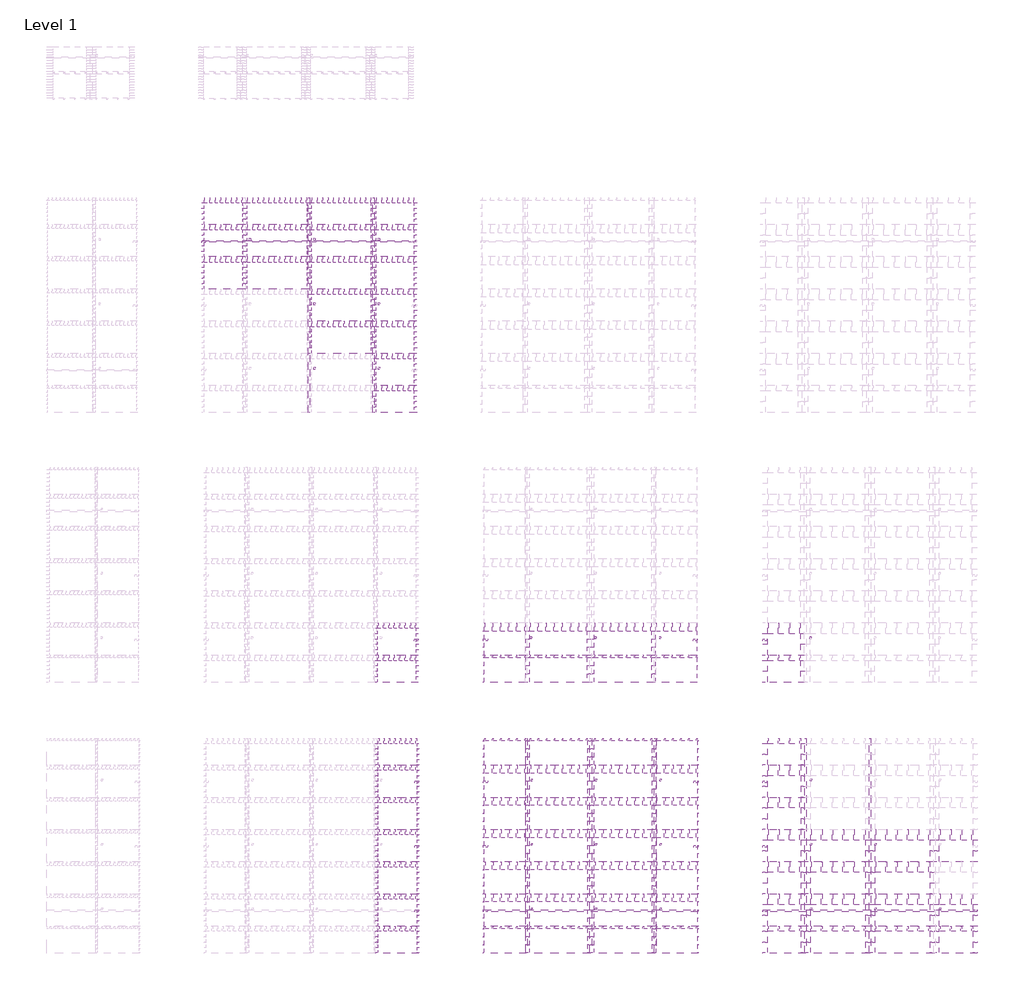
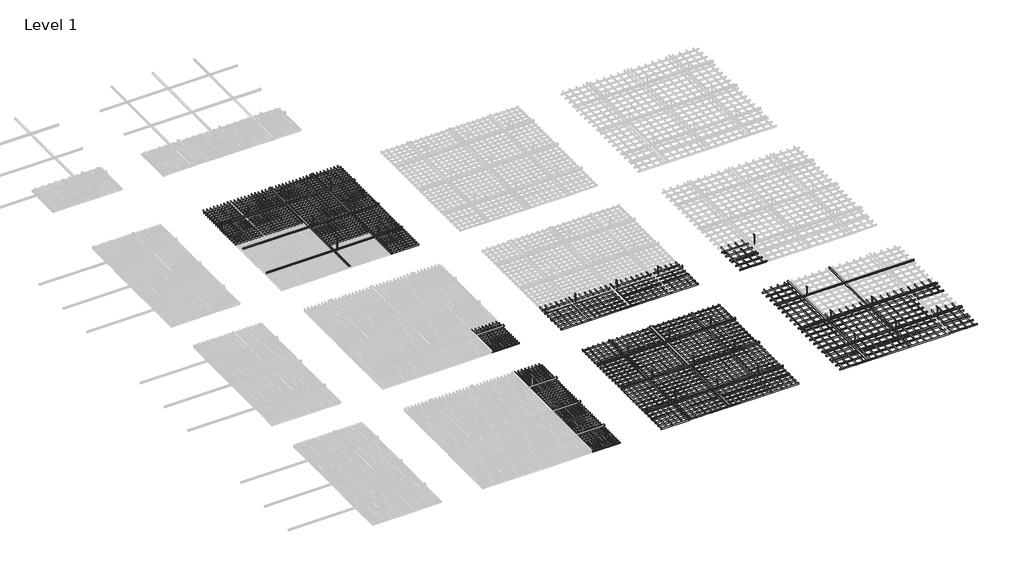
# One storey, part 13 of 32: 137 proxies.
"""IFC4 building model written with IfcOpenShell, lengths in millimetres."""

from ifc_helpers import new_model, si_unit, origin, place, context, project, spatial, transform, mapped, element, save
from components import generic_models_f4ce44e0, generic_models_8915e19e, generic_models_b706f660, generic_models_8f572224, generic_models_2927a7a0, generic_models_375b31eb, generic_models_111ba9e5, generic_models_deb741b8, generic_models_ab05f4b6, generic_models_ed86a27e, generic_models_0d36629b, generic_models_4441d552, generic_models_71c4b85c, generic_models_6bcacae0, generic_models_b7501322, generic_models_f3941969, generic_models_6d0d0a9c, generic_models_cc0eb073, generic_models_892ac56f, generic_models_c55380b1, generic_models_c5b66b1f, generic_models_3ca765b0, generic_models_711bea8a, generic_models_0913f8e8, generic_models_f6474ad0, generic_models_28f6a95c, generic_models_9e18e937

model = new_model("IFC4")

# Units and contexts
model_context = context("Model", 3, world=origin())
ifc_project = project(units=[si_unit("LENGTHUNIT", "METRE", prefix="MILLI")], contexts=[model_context])

# Site, building, storey
site = spatial("IfcSite", under=ifc_project)
building = spatial("IfcBuilding", under=site)
storey = spatial("IfcBuildingStorey", under=building, Name="Level 1", Elevation=0.0)

# Proxies
placement = place(None, origin())
generic_models_shape = generic_models_f4ce44e0(model_context)
element("IfcBuildingElementProxy", 1, Name="durlum_U94 : durlum_U94", ObjectType="durlum_U94 : durlum_U94", at=placement, inside=storey, context=model_context, shape_type="MappedRepresentation", body=[
    mapped(generic_models_shape, transform((46374.5159714, -2089.6204758, 3724.0), x_axis=(0.0, 1.0, 0.0), y_axis=(-1.0, 0.0, 0.0), z_axis=(0.0, 0.0, 1.0))),
])
element("IfcBuildingElementProxy", 2, Name="durlum_U94 : durlum_U94", ObjectType="durlum_U94 : durlum_U94", at=placement, inside=storey, context=model_context, shape_type="MappedRepresentation", body=[
    mapped(generic_models_shape, transform((47574.5159714, -2089.6204758, 3724.0), x_axis=(0.0, 1.0, 0.0), y_axis=(-1.0, 0.0, 0.0), z_axis=(0.0, 0.0, 1.0))),
])
element("IfcBuildingElementProxy", 3, Name="durlum_U94 : durlum_U94", ObjectType="durlum_U94 : durlum_U94", at=placement, inside=storey, context=model_context, shape_type="MappedRepresentation", body=[
    mapped(generic_models_shape, transform((51618.6409714, -12159.3698822, 3724.0), x_axis=(0.0, 1.0, 0.0), y_axis=(-1.0, 0.0, 0.0), z_axis=(0.0, 0.0, 1.0))),
])
element("IfcBuildingElementProxy", 4, Name="durlum_U94 : durlum_U94", ObjectType="durlum_U94 : durlum_U94", at=placement, inside=storey, context=model_context, shape_type="MappedRepresentation", body=[
    mapped(generic_models_shape, transform((50418.6409714, -12159.3698822, 3724.0), x_axis=(0.0, 1.0, 0.0), y_axis=(-1.0, 0.0, 0.0), z_axis=(0.0, 0.0, 1.0))),
])
element("IfcBuildingElementProxy", 5, Name="durlum_U94 : durlum_U94", ObjectType="durlum_U94 : durlum_U94", at=placement, inside=storey, context=model_context, shape_type="MappedRepresentation", body=[
    mapped(generic_models_shape, transform((52818.6409714, -12159.3698822, 3724.0), x_axis=(0.0, 1.0, 0.0), y_axis=(-1.0, 0.0, 0.0), z_axis=(0.0, 0.0, 1.0))),
])
element("IfcBuildingElementProxy", 6, Name="durlum_U94 : durlum_U94", ObjectType="durlum_U94 : durlum_U94", at=placement, inside=storey, context=model_context, shape_type="MappedRepresentation", body=[
    mapped(generic_models_shape, transform((56818.6409714, -12159.3698822, 3724.0), x_axis=(0.0, 1.0, 0.0), y_axis=(-1.0, 0.0, 0.0), z_axis=(0.0, 0.0, 1.0))),
])
element("IfcBuildingElementProxy", 7, Name="durlum_U94 : durlum_U94", ObjectType="durlum_U94 : durlum_U94", at=placement, inside=storey, context=model_context, shape_type="MappedRepresentation", body=[
    mapped(generic_models_shape, transform((55618.6409714, -12159.3698822, 3724.0), x_axis=(0.0, 1.0, 0.0), y_axis=(-1.0, 0.0, 0.0), z_axis=(0.0, 0.0, 1.0))),
])
generic_models_2_shape = generic_models_8915e19e(model_context)
element("IfcBuildingElementProxy", 8, Name="durlum_GEO_panel : durlum_GEO_4", ObjectType="durlum_GEO_panel : durlum_GEO_4", at=placement, inside=storey, context=model_context, shape_type="MappedRepresentation", body=[
    mapped(generic_models_2_shape, transform((46974.5159714, -2689.6204758, 3700.0), x_axis=(1.0, 0.0, 0.0), y_axis=(0.0, 1.0, 0.0), z_axis=(0.0, 0.0, 1.0))),
])
element("IfcBuildingElementProxy", 9, Name="durlum_GEO_panel : durlum_GEO_4", ObjectType="durlum_GEO_panel : durlum_GEO_4", at=placement, inside=storey, context=model_context, shape_type="MappedRepresentation", body=[
    mapped(generic_models_2_shape, transform((46974.5159714, -2089.6204758, 3700.0), x_axis=(1.0, 0.0, 0.0), y_axis=(0.0, 1.0, 0.0), z_axis=(0.0, 0.0, 1.0))),
])
element("IfcBuildingElementProxy", 10, Name="durlum_GEO_panel : durlum_GEO_4", ObjectType="durlum_GEO_panel : durlum_GEO_4", at=placement, inside=storey, context=model_context, shape_type="MappedRepresentation", body=[
    mapped(generic_models_2_shape, transform((45774.5159714, -1489.6204758, 3700.0), x_axis=(1.0, 0.0, 0.0), y_axis=(0.0, 1.0, 0.0), z_axis=(0.0, 0.0, 1.0))),
])
element("IfcBuildingElementProxy", 11, Name="durlum_GEO_panel : durlum_GEO_4", ObjectType="durlum_GEO_panel : durlum_GEO_4", at=placement, inside=storey, context=model_context, shape_type="MappedRepresentation", body=[
    mapped(generic_models_2_shape, transform((46974.5159714, -1489.6204758, 3700.0), x_axis=(1.0, 0.0, 0.0), y_axis=(0.0, 1.0, 0.0), z_axis=(0.0, 0.0, 1.0))),
])
element("IfcBuildingElementProxy", 12, Name="durlum_GEO_panel : durlum_GEO_4", ObjectType="durlum_GEO_panel : durlum_GEO_4", at=placement, inside=storey, context=model_context, shape_type="MappedRepresentation", body=[
    mapped(generic_models_2_shape, transform((45774.5159714, -889.6204758, 3700.0), x_axis=(1.0, 0.0, 0.0), y_axis=(0.0, 1.0, 0.0), z_axis=(0.0, 0.0, 1.0))),
])
element("IfcBuildingElementProxy", 13, Name="durlum_GEO_panel : durlum_GEO_4", ObjectType="durlum_GEO_panel : durlum_GEO_4", at=placement, inside=storey, context=model_context, shape_type="MappedRepresentation", body=[
    mapped(generic_models_2_shape, transform((46974.5159714, -889.6204758, 3700.0), x_axis=(1.0, 0.0, 0.0), y_axis=(0.0, 1.0, 0.0), z_axis=(0.0, 0.0, 1.0))),
])
generic_models_3_shape = generic_models_b706f660(model_context)
element("IfcBuildingElementProxy", 14, Name="durlum_GEO_panel : durlum_GEO_4_width_cut", ObjectType="durlum_GEO_panel : durlum_GEO_4_width_cut", at=placement, inside=storey, context=model_context, shape_type="MappedRepresentation", body=[
    mapped(generic_models_3_shape, transform((45774.5159714, -339.6204758, 3700.0), x_axis=(1.0, 0.0, 0.0), y_axis=(0.0, 1.0, 0.0), z_axis=(0.0, 0.0, 1.0))),
])
element("IfcBuildingElementProxy", 15, Name="durlum_GEO_panel : durlum_GEO_4_width_cut", ObjectType="durlum_GEO_panel : durlum_GEO_4_width_cut", at=placement, inside=storey, context=model_context, shape_type="MappedRepresentation", body=[
    mapped(generic_models_3_shape, transform((46974.5159714, -339.6204758, 3700.0), x_axis=(1.0, 0.0, 0.0), y_axis=(0.0, 1.0, 0.0), z_axis=(0.0, 0.0, 1.0))),
])
generic_models_4_shape = generic_models_8f572224(model_context)
element("IfcBuildingElementProxy", 16, Name="durlum_GEO_panel : durlum_GEO_15", ObjectType="durlum_GEO_panel : durlum_GEO_15", at=placement, inside=storey, context=model_context, shape_type="MappedRepresentation", body=[
    mapped(generic_models_4_shape, transform((51018.6409714, -12759.3698822, 3700.0), x_axis=(1.0, 0.0, 0.0), y_axis=(0.0, 1.0, 0.0), z_axis=(0.0, 0.0, 1.0))),
])
element("IfcBuildingElementProxy", 17, Name="durlum_GEO_panel : durlum_GEO_15", ObjectType="durlum_GEO_panel : durlum_GEO_15", at=placement, inside=storey, context=model_context, shape_type="MappedRepresentation", body=[
    mapped(generic_models_4_shape, transform((52218.6409714, -12759.3698822, 3700.0), x_axis=(1.0, 0.0, 0.0), y_axis=(0.0, 1.0, 0.0), z_axis=(0.0, 0.0, 1.0))),
])
element("IfcBuildingElementProxy", 18, Name="durlum_GEO_panel : durlum_GEO_15", ObjectType="durlum_GEO_panel : durlum_GEO_15", at=placement, inside=storey, context=model_context, shape_type="MappedRepresentation", body=[
    mapped(generic_models_4_shape, transform((51018.6409714, -12159.3698822, 3700.0), x_axis=(1.0, 0.0, 0.0), y_axis=(0.0, 1.0, 0.0), z_axis=(0.0, 0.0, 1.0))),
])
element("IfcBuildingElementProxy", 19, Name="durlum_GEO_panel : durlum_GEO_15", ObjectType="durlum_GEO_panel : durlum_GEO_15", at=placement, inside=storey, context=model_context, shape_type="MappedRepresentation", body=[
    mapped(generic_models_4_shape, transform((52218.6409714, -12159.3698822, 3700.0), x_axis=(1.0, 0.0, 0.0), y_axis=(0.0, 1.0, 0.0), z_axis=(0.0, 0.0, 1.0))),
])
element("IfcBuildingElementProxy", 20, Name="durlum_GEO_panel : durlum_GEO_15", ObjectType="durlum_GEO_panel : durlum_GEO_15", at=placement, inside=storey, context=model_context, shape_type="MappedRepresentation", body=[
    mapped(generic_models_4_shape, transform((51018.6409714, -11559.3698822, 3700.0), x_axis=(1.0, 0.0, 0.0), y_axis=(0.0, 1.0, 0.0), z_axis=(0.0, 0.0, 1.0))),
])
element("IfcBuildingElementProxy", 21, Name="durlum_GEO_panel : durlum_GEO_15", ObjectType="durlum_GEO_panel : durlum_GEO_15", at=placement, inside=storey, context=model_context, shape_type="MappedRepresentation", body=[
    mapped(generic_models_4_shape, transform((52218.6409714, -11559.3698822, 3700.0), x_axis=(1.0, 0.0, 0.0), y_axis=(0.0, 1.0, 0.0), z_axis=(0.0, 0.0, 1.0))),
])
element("IfcBuildingElementProxy", 22, Name="durlum_GEO_panel : durlum_GEO_15", ObjectType="durlum_GEO_panel : durlum_GEO_15", at=placement, inside=storey, context=model_context, shape_type="MappedRepresentation", body=[
    mapped(generic_models_4_shape, transform((51018.6409714, -10959.3698822, 3700.0), x_axis=(1.0, 0.0, 0.0), y_axis=(0.0, 1.0, 0.0), z_axis=(0.0, 0.0, 1.0))),
])
element("IfcBuildingElementProxy", 23, Name="durlum_GEO_panel : durlum_GEO_15", ObjectType="durlum_GEO_panel : durlum_GEO_15", at=placement, inside=storey, context=model_context, shape_type="MappedRepresentation", body=[
    mapped(generic_models_4_shape, transform((52218.6409714, -10959.3698822, 3700.0), x_axis=(1.0, 0.0, 0.0), y_axis=(0.0, 1.0, 0.0), z_axis=(0.0, 0.0, 1.0))),
])
element("IfcBuildingElementProxy", 24, Name="durlum_GEO_panel : durlum_GEO_15", ObjectType="durlum_GEO_panel : durlum_GEO_15", at=placement, inside=storey, context=model_context, shape_type="MappedRepresentation", body=[
    mapped(generic_models_4_shape, transform((51018.6409714, -13359.3698822, 3700.0), x_axis=(1.0, 0.0, 0.0), y_axis=(0.0, 1.0, 0.0), z_axis=(0.0, 0.0, 1.0))),
])
element("IfcBuildingElementProxy", 25, Name="durlum_GEO_panel : durlum_GEO_15", ObjectType="durlum_GEO_panel : durlum_GEO_15", at=placement, inside=storey, context=model_context, shape_type="MappedRepresentation", body=[
    mapped(generic_models_4_shape, transform((52218.6409714, -13359.3698822, 3700.0), x_axis=(1.0, 0.0, 0.0), y_axis=(0.0, 1.0, 0.0), z_axis=(0.0, 0.0, 1.0))),
])
generic_models_5_shape = generic_models_2927a7a0(model_context)
element("IfcBuildingElementProxy", 26, Name="durlum_GEO_panel : durlum_GEO_15_width_cut", ObjectType="durlum_GEO_panel : durlum_GEO_15_width_cut", at=placement, inside=storey, context=model_context, shape_type="MappedRepresentation", body=[
    mapped(generic_models_5_shape, transform((51018.6409714, -13909.3698822, 3700.0), x_axis=(1.0, 0.0, 0.0), y_axis=(0.0, 1.0, 0.0), z_axis=(0.0, 0.0, 1.0))),
])
element("IfcBuildingElementProxy", 27, Name="durlum_GEO_panel : durlum_GEO_15_width_cut", ObjectType="durlum_GEO_panel : durlum_GEO_15_width_cut", at=placement, inside=storey, context=model_context, shape_type="MappedRepresentation", body=[
    mapped(generic_models_5_shape, transform((51018.6409714, -10409.3698822, 3700.0), x_axis=(1.0, 0.0, 0.0), y_axis=(0.0, 1.0, 0.0), z_axis=(0.0, 0.0, 1.0))),
])
element("IfcBuildingElementProxy", 28, Name="durlum_GEO_panel : durlum_GEO_15_width_cut", ObjectType="durlum_GEO_panel : durlum_GEO_15_width_cut", at=placement, inside=storey, context=model_context, shape_type="MappedRepresentation", body=[
    mapped(generic_models_5_shape, transform((52218.6409714, -13909.3698822, 3700.0), x_axis=(1.0, 0.0, 0.0), y_axis=(0.0, 1.0, 0.0), z_axis=(0.0, 0.0, 1.0))),
])
element("IfcBuildingElementProxy", 29, Name="durlum_GEO_panel : durlum_GEO_15_width_cut", ObjectType="durlum_GEO_panel : durlum_GEO_15_width_cut", at=placement, inside=storey, context=model_context, shape_type="MappedRepresentation", body=[
    mapped(generic_models_5_shape, transform((52218.6409714, -10409.3698822, 3700.0), x_axis=(1.0, 0.0, 0.0), y_axis=(0.0, 1.0, 0.0), z_axis=(0.0, 0.0, 1.0))),
])
generic_models_6_shape = generic_models_375b31eb(model_context)
element("IfcBuildingElementProxy", 30, Name="durlum_GEO_panel : durlum_GEO_9", ObjectType="durlum_GEO_panel : durlum_GEO_9", at=placement, inside=storey, context=model_context, shape_type="MappedRepresentation", body=[
    mapped(generic_models_6_shape, transform((51012.2666746, -8312.09776, 3700.0), x_axis=(1.0, 0.0, 0.0), y_axis=(0.0, 1.0, 0.0), z_axis=(0.0, 0.0, 1.0))),
])
element("IfcBuildingElementProxy", 31, Name="durlum_GEO_panel : durlum_GEO_9", ObjectType="durlum_GEO_panel : durlum_GEO_9", at=placement, inside=storey, context=model_context, shape_type="MappedRepresentation", body=[
    mapped(generic_models_6_shape, transform((52212.2666746, -8312.09776, 3700.0), x_axis=(1.0, 0.0, 0.0), y_axis=(0.0, 1.0, 0.0), z_axis=(0.0, 0.0, 1.0))),
])
generic_models_7_shape = generic_models_111ba9e5(model_context)
element("IfcBuildingElementProxy", 32, Name="durlum_GEO_panel : durlum_GEO_9_width_cut", ObjectType="durlum_GEO_panel : durlum_GEO_9_width_cut", at=placement, inside=storey, context=model_context, shape_type="MappedRepresentation", body=[
    mapped(generic_models_7_shape, transform((51012.2666746, -8862.09776, 3700.0), x_axis=(1.0, 0.0, 0.0), y_axis=(0.0, 1.0, 0.0), z_axis=(0.0, 0.0, 1.0))),
])
element("IfcBuildingElementProxy", 33, Name="durlum_GEO_panel : durlum_GEO_9_width_cut", ObjectType="durlum_GEO_panel : durlum_GEO_9_width_cut", at=placement, inside=storey, context=model_context, shape_type="MappedRepresentation", body=[
    mapped(generic_models_7_shape, transform((52212.2666746, -8862.09776, 3700.0), x_axis=(1.0, 0.0, 0.0), y_axis=(0.0, 1.0, 0.0), z_axis=(0.0, 0.0, 1.0))),
])
generic_models_8_shape = generic_models_deb741b8(model_context)
element("IfcBuildingElementProxy", 34, Name="durlum_GEO_panel : durlum_GEO_15", ObjectType="durlum_GEO_panel : durlum_GEO_15", at=placement, inside=storey, context=model_context, shape_type="MappedRepresentation", body=[
    mapped(generic_models_8_shape, transform((56218.6409714, -12759.3698822, 3700.0), x_axis=(1.0, 0.0, 0.0), y_axis=(0.0, 1.0, 0.0), z_axis=(0.0, 0.0, 1.0))),
])
element("IfcBuildingElementProxy", 35, Name="durlum_GEO_panel : durlum_GEO_15", ObjectType="durlum_GEO_panel : durlum_GEO_15", at=placement, inside=storey, context=model_context, shape_type="MappedRepresentation", body=[
    mapped(generic_models_8_shape, transform((57418.6409714, -12759.3698822, 3700.0), x_axis=(1.0, 0.0, 0.0), y_axis=(0.0, 1.0, 0.0), z_axis=(0.0, 0.0, 1.0))),
])
element("IfcBuildingElementProxy", 36, Name="durlum_GEO_panel : durlum_GEO_15", ObjectType="durlum_GEO_panel : durlum_GEO_15", at=placement, inside=storey, context=model_context, shape_type="MappedRepresentation", body=[
    mapped(generic_models_8_shape, transform((56218.6409714, -12159.3698822, 3700.0), x_axis=(1.0, 0.0, 0.0), y_axis=(0.0, 1.0, 0.0), z_axis=(0.0, 0.0, 1.0))),
])
element("IfcBuildingElementProxy", 37, Name="durlum_GEO_panel : durlum_GEO_15", ObjectType="durlum_GEO_panel : durlum_GEO_15", at=placement, inside=storey, context=model_context, shape_type="MappedRepresentation", body=[
    mapped(generic_models_8_shape, transform((57418.6409714, -12159.3698822, 3700.0), x_axis=(1.0, 0.0, 0.0), y_axis=(0.0, 1.0, 0.0), z_axis=(0.0, 0.0, 1.0))),
])
element("IfcBuildingElementProxy", 38, Name="durlum_GEO_panel : durlum_GEO_15", ObjectType="durlum_GEO_panel : durlum_GEO_15", at=placement, inside=storey, context=model_context, shape_type="MappedRepresentation", body=[
    mapped(generic_models_8_shape, transform((56218.6409714, -13359.3698822, 3700.0), x_axis=(1.0, 0.0, 0.0), y_axis=(0.0, 1.0, 0.0), z_axis=(0.0, 0.0, 1.0))),
])
element("IfcBuildingElementProxy", 39, Name="durlum_GEO_panel : durlum_GEO_15", ObjectType="durlum_GEO_panel : durlum_GEO_15", at=placement, inside=storey, context=model_context, shape_type="MappedRepresentation", body=[
    mapped(generic_models_8_shape, transform((57418.6409714, -13359.3698822, 3700.0), x_axis=(1.0, 0.0, 0.0), y_axis=(0.0, 1.0, 0.0), z_axis=(0.0, 0.0, 1.0))),
])
generic_models_9_shape = generic_models_ab05f4b6(model_context)
element("IfcBuildingElementProxy", 40, Name="durlum_GEO_panel : durlum_GEO_15_width_cut", ObjectType="durlum_GEO_panel : durlum_GEO_15_width_cut", at=placement, inside=storey, context=model_context, shape_type="MappedRepresentation", body=[
    mapped(generic_models_9_shape, transform((56218.6409714, -13909.3698822, 3700.0), x_axis=(1.0, 0.0, 0.0), y_axis=(0.0, 1.0, 0.0), z_axis=(0.0, 0.0, 1.0))),
])
element("IfcBuildingElementProxy", 41, Name="durlum_GEO_panel : durlum_GEO_15_width_cut", ObjectType="durlum_GEO_panel : durlum_GEO_15_width_cut", at=placement, inside=storey, context=model_context, shape_type="MappedRepresentation", body=[
    mapped(generic_models_9_shape, transform((57418.6409714, -13909.3698822, 3700.0), x_axis=(1.0, 0.0, 0.0), y_axis=(0.0, 1.0, 0.0), z_axis=(0.0, 0.0, 1.0))),
])
generic_models_10_shape = generic_models_ed86a27e(model_context)
element("IfcBuildingElementProxy", 42, Name="durlum_GEO_4 : durlum_GEO_4", ObjectType="durlum_GEO_4 : durlum_GEO_4", at=placement, inside=storey, context=model_context, shape_type="MappedRepresentation", body=[
    mapped(generic_models_10_shape, transform((46374.5159714, -2089.6204758, 0.0), x_axis=(1.0, 0.0, 0.0), y_axis=(0.0, 1.0, 0.0), z_axis=(0.0, 0.0, 1.0))),
])
generic_models_11_shape = generic_models_0d36629b(model_context)
element("IfcBuildingElementProxy", 43, Name="durlum_GEO_panel : durlum_GEO_4_length_cut", ObjectType="durlum_GEO_panel : durlum_GEO_4_length_cut", at=placement, inside=storey, context=model_context, shape_type="MappedRepresentation", body=[
    mapped(generic_models_11_shape, transform((44774.2659714, -1489.6204758, 3700.0), x_axis=(1.0, 0.0, 0.0), y_axis=(0.0, 1.0, 0.0), z_axis=(0.0, 0.0, 1.0))),
])
element("IfcBuildingElementProxy", 44, Name="durlum_GEO_panel : durlum_GEO_4_length_cut", ObjectType="durlum_GEO_panel : durlum_GEO_4_length_cut", at=placement, inside=storey, context=model_context, shape_type="MappedRepresentation", body=[
    mapped(generic_models_11_shape, transform((47974.7659714, -1489.6204758, 3700.0), x_axis=(1.0, 0.0, 0.0), y_axis=(0.0, 1.0, 0.0), z_axis=(0.0, 0.0, 1.0))),
])
element("IfcBuildingElementProxy", 45, Name="durlum_GEO_panel : durlum_GEO_4_length_cut", ObjectType="durlum_GEO_panel : durlum_GEO_4_length_cut", at=placement, inside=storey, context=model_context, shape_type="MappedRepresentation", body=[
    mapped(generic_models_11_shape, transform((47974.7659714, -2089.6204758, 3700.0), x_axis=(1.0, 0.0, 0.0), y_axis=(0.0, 1.0, 0.0), z_axis=(0.0, 0.0, 1.0))),
])
element("IfcBuildingElementProxy", 46, Name="durlum_GEO_panel : durlum_GEO_4_length_cut", ObjectType="durlum_GEO_panel : durlum_GEO_4_length_cut", at=placement, inside=storey, context=model_context, shape_type="MappedRepresentation", body=[
    mapped(generic_models_11_shape, transform((47974.7659714, -2689.6204758, 3700.0), x_axis=(1.0, 0.0, 0.0), y_axis=(0.0, 1.0, 0.0), z_axis=(0.0, 0.0, 1.0))),
])
element("IfcBuildingElementProxy", 47, Name="durlum_GEO_panel : durlum_GEO_4_length_cut", ObjectType="durlum_GEO_panel : durlum_GEO_4_length_cut", at=placement, inside=storey, context=model_context, shape_type="MappedRepresentation", body=[
    mapped(generic_models_11_shape, transform((47974.7659714, -889.6204758, 3700.0), x_axis=(1.0, 0.0, 0.0), y_axis=(0.0, 1.0, 0.0), z_axis=(0.0, 0.0, 1.0))),
])
element("IfcBuildingElementProxy", 48, Name="durlum_GEO_panel : durlum_GEO_4_length_cut", ObjectType="durlum_GEO_panel : durlum_GEO_4_length_cut", at=placement, inside=storey, context=model_context, shape_type="MappedRepresentation", body=[
    mapped(generic_models_11_shape, transform((44774.2659714, -889.6204758, 3700.0), x_axis=(1.0, 0.0, 0.0), y_axis=(0.0, 1.0, 0.0), z_axis=(0.0, 0.0, 1.0))),
])
element("IfcBuildingElementProxy", 49, Name="durlum_GEO_panel : durlum_GEO_4_length_cut", ObjectType="durlum_GEO_panel : durlum_GEO_4_length_cut", at=placement, inside=storey, context=model_context, shape_type="MappedRepresentation", body=[
    mapped(generic_models_11_shape, transform((47974.7659714, -3289.6204758, 3700.0), x_axis=(1.0, 0.0, 0.0), y_axis=(0.0, 1.0, 0.0), z_axis=(0.0, 0.0, 1.0))),
])
generic_models_12_shape = generic_models_4441d552(model_context)
element("IfcBuildingElementProxy", 50, Name="durlum_GEO_panel : durlum_GEO_4_corner_cut", ObjectType="durlum_GEO_panel : durlum_GEO_4_corner_cut", at=placement, inside=storey, context=model_context, shape_type="MappedRepresentation", body=[
    mapped(generic_models_12_shape, transform((47974.7659714, -339.6204758, 3700.0), x_axis=(1.0, 0.0, 0.0), y_axis=(0.0, 1.0, 0.0), z_axis=(0.0, 0.0, 1.0))),
])
element("IfcBuildingElementProxy", 51, Name="durlum_GEO_panel : durlum_GEO_4_corner_cut", ObjectType="durlum_GEO_panel : durlum_GEO_4_corner_cut", at=placement, inside=storey, context=model_context, shape_type="MappedRepresentation", body=[
    mapped(generic_models_12_shape, transform((44774.2659714, -339.6204758, 3700.0), x_axis=(1.0, 0.0, 0.0), y_axis=(0.0, 1.0, 0.0), z_axis=(0.0, 0.0, 1.0))),
])
element("IfcBuildingElementProxy", 52, Name="durlum_GEO_panel : durlum_GEO_4_corner_cut", ObjectType="durlum_GEO_panel : durlum_GEO_4_corner_cut", at=placement, inside=storey, context=model_context, shape_type="MappedRepresentation", body=[
    mapped(generic_models_12_shape, transform((47974.7659714, -3839.6204758, 3700.0), x_axis=(1.0, 0.0, 0.0), y_axis=(0.0, 1.0, 0.0), z_axis=(0.0, 0.0, 1.0))),
])
generic_models_13_shape = generic_models_71c4b85c(model_context)
element("IfcBuildingElementProxy", 53, Name="durlum_GEO_panel : durlum_GEO_9_length_cut", ObjectType="durlum_GEO_panel : durlum_GEO_9_length_cut", at=placement, inside=storey, context=model_context, shape_type="MappedRepresentation", body=[
    mapped(generic_models_13_shape, transform((48009.3295262, -8312.09776, 3700.0), x_axis=(1.0, 0.0, 0.0), y_axis=(0.0, 1.0, 0.0), z_axis=(0.0, 0.0, 1.0))),
])
generic_models_14_shape = generic_models_6bcacae0(model_context)
element("IfcBuildingElementProxy", 54, Name="durlum_GEO_panel : durlum_GEO_9_corner_cut", ObjectType="durlum_GEO_panel : durlum_GEO_9_corner_cut", at=placement, inside=storey, context=model_context, shape_type="MappedRepresentation", body=[
    mapped(generic_models_14_shape, transform((48009.3295262, -8862.09776, 3700.0), x_axis=(1.0, 0.0, 0.0), y_axis=(0.0, 1.0, 0.0), z_axis=(0.0, 0.0, 1.0))),
])
generic_models_15_shape = generic_models_b7501322(model_context)
element("IfcBuildingElementProxy", 55, Name="durlum_GEO_panel : durlum_GEO_15_length_cut", ObjectType="durlum_GEO_panel : durlum_GEO_15_length_cut", at=placement, inside=storey, context=model_context, shape_type="MappedRepresentation", body=[
    mapped(generic_models_15_shape, transform((48018.8909714, -11559.3698822, 3700.0), x_axis=(1.0, 0.0, 0.0), y_axis=(0.0, 1.0, 0.0), z_axis=(0.0, 0.0, 1.0))),
])
element("IfcBuildingElementProxy", 56, Name="durlum_GEO_panel : durlum_GEO_15_length_cut", ObjectType="durlum_GEO_panel : durlum_GEO_15_length_cut", at=placement, inside=storey, context=model_context, shape_type="MappedRepresentation", body=[
    mapped(generic_models_15_shape, transform((48018.8909714, -12159.3698822, 3700.0), x_axis=(1.0, 0.0, 0.0), y_axis=(0.0, 1.0, 0.0), z_axis=(0.0, 0.0, 1.0))),
])
element("IfcBuildingElementProxy", 57, Name="durlum_GEO_panel : durlum_GEO_15_length_cut", ObjectType="durlum_GEO_panel : durlum_GEO_15_length_cut", at=placement, inside=storey, context=model_context, shape_type="MappedRepresentation", body=[
    mapped(generic_models_15_shape, transform((48018.8909714, -12759.3698822, 3700.0), x_axis=(1.0, 0.0, 0.0), y_axis=(0.0, 1.0, 0.0), z_axis=(0.0, 0.0, 1.0))),
])
element("IfcBuildingElementProxy", 58, Name="durlum_GEO_panel : durlum_GEO_15_length_cut", ObjectType="durlum_GEO_panel : durlum_GEO_15_length_cut", at=placement, inside=storey, context=model_context, shape_type="MappedRepresentation", body=[
    mapped(generic_models_15_shape, transform((48018.8909714, -10959.3698822, 3700.0), x_axis=(1.0, 0.0, 0.0), y_axis=(0.0, 1.0, 0.0), z_axis=(0.0, 0.0, 1.0))),
])
element("IfcBuildingElementProxy", 59, Name="durlum_GEO_panel : durlum_GEO_15_length_cut", ObjectType="durlum_GEO_panel : durlum_GEO_15_length_cut", at=placement, inside=storey, context=model_context, shape_type="MappedRepresentation", body=[
    mapped(generic_models_15_shape, transform((48018.8909714, -13359.3698822, 3700.0), x_axis=(1.0, 0.0, 0.0), y_axis=(0.0, 1.0, 0.0), z_axis=(0.0, 0.0, 1.0))),
])
generic_models_16_shape = generic_models_f3941969(model_context)
element("IfcBuildingElementProxy", 60, Name="durlum_GEO_panel : durlum_GEO_15_corner_cut", ObjectType="durlum_GEO_panel : durlum_GEO_15_corner_cut", at=placement, inside=storey, context=model_context, shape_type="MappedRepresentation", body=[
    mapped(generic_models_16_shape, transform((48018.8909714, -10409.3698822, 3700.0), x_axis=(1.0, 0.0, 0.0), y_axis=(0.0, 1.0, 0.0), z_axis=(0.0, 0.0, 1.0))),
])
element("IfcBuildingElementProxy", 61, Name="durlum_GEO_panel : durlum_GEO_15_corner_cut", ObjectType="durlum_GEO_panel : durlum_GEO_15_corner_cut", at=placement, inside=storey, context=model_context, shape_type="MappedRepresentation", body=[
    mapped(generic_models_16_shape, transform((48018.8909714, -13909.3698822, 3700.0), x_axis=(1.0, 0.0, 0.0), y_axis=(0.0, 1.0, 0.0), z_axis=(0.0, 0.0, 1.0))),
])
element("IfcBuildingElementProxy", 62, Name="durlum_GEO_15 : durlum_GEO_15", ObjectType="durlum_GEO_15 : durlum_GEO_15", at=placement, inside=storey, context=model_context, shape_type="MappedRepresentation", body=[
    mapped(generic_models_10_shape, transform((51618.6409714, -12159.3698822, 0.0), x_axis=(1.0, 0.0, 0.0), y_axis=(0.0, 1.0, 0.0), z_axis=(0.0, 0.0, 1.0))),
])
generic_models_17_shape = generic_models_6d0d0a9c(model_context)
element("IfcBuildingElementProxy", 63, Name="durlum_GEO_panel : durlum_GEO_9_length_cut", ObjectType="durlum_GEO_panel : durlum_GEO_9_length_cut", at=placement, inside=storey, context=model_context, shape_type="MappedRepresentation", body=[
    mapped(generic_models_17_shape, transform((50015.203823, -8312.09776, 3700.0), x_axis=(1.0, 0.0, 0.0), y_axis=(0.0, 1.0, 0.0), z_axis=(0.0, 0.0, 1.0))),
])
element("IfcBuildingElementProxy", 64, Name="durlum_GEO_panel : durlum_GEO_9_length_cut", ObjectType="durlum_GEO_panel : durlum_GEO_9_length_cut", at=placement, inside=storey, context=model_context, shape_type="MappedRepresentation", body=[
    mapped(generic_models_17_shape, transform((53209.3295262, -8312.09776, 3700.0), x_axis=(1.0, 0.0, 0.0), y_axis=(0.0, 1.0, 0.0), z_axis=(0.0, 0.0, 1.0))),
])
generic_models_18_shape = generic_models_cc0eb073(model_context)
element("IfcBuildingElementProxy", 65, Name="durlum_GEO_panel : durlum_GEO_9_corner_cut", ObjectType="durlum_GEO_panel : durlum_GEO_9_corner_cut", at=placement, inside=storey, context=model_context, shape_type="MappedRepresentation", body=[
    mapped(generic_models_18_shape, transform((50015.203823, -8862.09776, 3700.0), x_axis=(1.0, 0.0, 0.0), y_axis=(0.0, 1.0, 0.0), z_axis=(0.0, 0.0, 1.0))),
])
element("IfcBuildingElementProxy", 66, Name="durlum_GEO_panel : durlum_GEO_9_corner_cut", ObjectType="durlum_GEO_panel : durlum_GEO_9_corner_cut", at=placement, inside=storey, context=model_context, shape_type="MappedRepresentation", body=[
    mapped(generic_models_18_shape, transform((53209.3295262, -8862.09776, 3700.0), x_axis=(1.0, 0.0, 0.0), y_axis=(0.0, 1.0, 0.0), z_axis=(0.0, 0.0, 1.0))),
])
generic_models_19_shape = generic_models_892ac56f(model_context)
element("IfcBuildingElementProxy", 67, Name="durlum_GEO_panel : durlum_GEO_15_length_cut", ObjectType="durlum_GEO_panel : durlum_GEO_15_length_cut", at=placement, inside=storey, context=model_context, shape_type="MappedRepresentation", body=[
    mapped(generic_models_19_shape, transform((50018.3909714, -11559.3698822, 3700.0), x_axis=(1.0, 0.0, 0.0), y_axis=(0.0, 1.0, 0.0), z_axis=(0.0, 0.0, 1.0))),
])
element("IfcBuildingElementProxy", 68, Name="durlum_GEO_panel : durlum_GEO_15_length_cut", ObjectType="durlum_GEO_panel : durlum_GEO_15_length_cut", at=placement, inside=storey, context=model_context, shape_type="MappedRepresentation", body=[
    mapped(generic_models_19_shape, transform((50018.3909714, -12159.3698822, 3700.0), x_axis=(1.0, 0.0, 0.0), y_axis=(0.0, 1.0, 0.0), z_axis=(0.0, 0.0, 1.0))),
])
element("IfcBuildingElementProxy", 69, Name="durlum_GEO_panel : durlum_GEO_15_length_cut", ObjectType="durlum_GEO_panel : durlum_GEO_15_length_cut", at=placement, inside=storey, context=model_context, shape_type="MappedRepresentation", body=[
    mapped(generic_models_19_shape, transform((50018.3909714, -12759.3698822, 3700.0), x_axis=(1.0, 0.0, 0.0), y_axis=(0.0, 1.0, 0.0), z_axis=(0.0, 0.0, 1.0))),
])
element("IfcBuildingElementProxy", 70, Name="durlum_GEO_panel : durlum_GEO_15_length_cut", ObjectType="durlum_GEO_panel : durlum_GEO_15_length_cut", at=placement, inside=storey, context=model_context, shape_type="MappedRepresentation", body=[
    mapped(generic_models_19_shape, transform((53218.8909714, -11559.3698822, 3700.0), x_axis=(1.0, 0.0, 0.0), y_axis=(0.0, 1.0, 0.0), z_axis=(0.0, 0.0, 1.0))),
])
element("IfcBuildingElementProxy", 71, Name="durlum_GEO_panel : durlum_GEO_15_length_cut", ObjectType="durlum_GEO_panel : durlum_GEO_15_length_cut", at=placement, inside=storey, context=model_context, shape_type="MappedRepresentation", body=[
    mapped(generic_models_19_shape, transform((53218.8909714, -12159.3698822, 3700.0), x_axis=(1.0, 0.0, 0.0), y_axis=(0.0, 1.0, 0.0), z_axis=(0.0, 0.0, 1.0))),
])
element("IfcBuildingElementProxy", 72, Name="durlum_GEO_panel : durlum_GEO_15_length_cut", ObjectType="durlum_GEO_panel : durlum_GEO_15_length_cut", at=placement, inside=storey, context=model_context, shape_type="MappedRepresentation", body=[
    mapped(generic_models_19_shape, transform((53218.8909714, -12759.3698822, 3700.0), x_axis=(1.0, 0.0, 0.0), y_axis=(0.0, 1.0, 0.0), z_axis=(0.0, 0.0, 1.0))),
])
element("IfcBuildingElementProxy", 73, Name="durlum_GEO_panel : durlum_GEO_15_length_cut", ObjectType="durlum_GEO_panel : durlum_GEO_15_length_cut", at=placement, inside=storey, context=model_context, shape_type="MappedRepresentation", body=[
    mapped(generic_models_19_shape, transform((53218.8909714, -10959.3698822, 3700.0), x_axis=(1.0, 0.0, 0.0), y_axis=(0.0, 1.0, 0.0), z_axis=(0.0, 0.0, 1.0))),
])
element("IfcBuildingElementProxy", 74, Name="durlum_GEO_panel : durlum_GEO_15_length_cut", ObjectType="durlum_GEO_panel : durlum_GEO_15_length_cut", at=placement, inside=storey, context=model_context, shape_type="MappedRepresentation", body=[
    mapped(generic_models_19_shape, transform((50018.3909714, -10959.3698822, 3700.0), x_axis=(1.0, 0.0, 0.0), y_axis=(0.0, 1.0, 0.0), z_axis=(0.0, 0.0, 1.0))),
])
element("IfcBuildingElementProxy", 75, Name="durlum_GEO_panel : durlum_GEO_15_length_cut", ObjectType="durlum_GEO_panel : durlum_GEO_15_length_cut", at=placement, inside=storey, context=model_context, shape_type="MappedRepresentation", body=[
    mapped(generic_models_19_shape, transform((50018.3909714, -13359.3698822, 3700.0), x_axis=(1.0, 0.0, 0.0), y_axis=(0.0, 1.0, 0.0), z_axis=(0.0, 0.0, 1.0))),
])
element("IfcBuildingElementProxy", 76, Name="durlum_GEO_panel : durlum_GEO_15_length_cut", ObjectType="durlum_GEO_panel : durlum_GEO_15_length_cut", at=placement, inside=storey, context=model_context, shape_type="MappedRepresentation", body=[
    mapped(generic_models_19_shape, transform((53218.8909714, -13359.3698822, 3700.0), x_axis=(1.0, 0.0, 0.0), y_axis=(0.0, 1.0, 0.0), z_axis=(0.0, 0.0, 1.0))),
])
generic_models_20_shape = generic_models_c55380b1(model_context)
element("IfcBuildingElementProxy", 77, Name="durlum_GEO_panel : durlum_GEO_15_corner_cut", ObjectType="durlum_GEO_panel : durlum_GEO_15_corner_cut", at=placement, inside=storey, context=model_context, shape_type="MappedRepresentation", body=[
    mapped(generic_models_20_shape, transform((53218.8909714, -10409.3698822, 3700.0), x_axis=(1.0, 0.0, 0.0), y_axis=(0.0, 1.0, 0.0), z_axis=(0.0, 0.0, 1.0))),
])
element("IfcBuildingElementProxy", 78, Name="durlum_GEO_panel : durlum_GEO_15_corner_cut", ObjectType="durlum_GEO_panel : durlum_GEO_15_corner_cut", at=placement, inside=storey, context=model_context, shape_type="MappedRepresentation", body=[
    mapped(generic_models_20_shape, transform((50018.3909714, -10409.3698822, 3700.0), x_axis=(1.0, 0.0, 0.0), y_axis=(0.0, 1.0, 0.0), z_axis=(0.0, 0.0, 1.0))),
])
element("IfcBuildingElementProxy", 79, Name="durlum_GEO_panel : durlum_GEO_15_corner_cut", ObjectType="durlum_GEO_panel : durlum_GEO_15_corner_cut", at=placement, inside=storey, context=model_context, shape_type="MappedRepresentation", body=[
    mapped(generic_models_20_shape, transform((50018.3909714, -13909.3698822, 3700.0), x_axis=(1.0, 0.0, 0.0), y_axis=(0.0, 1.0, 0.0), z_axis=(0.0, 0.0, 1.0))),
])
element("IfcBuildingElementProxy", 80, Name="durlum_GEO_panel : durlum_GEO_15_corner_cut", ObjectType="durlum_GEO_panel : durlum_GEO_15_corner_cut", at=placement, inside=storey, context=model_context, shape_type="MappedRepresentation", body=[
    mapped(generic_models_20_shape, transform((53218.8909714, -13909.3698822, 3700.0), x_axis=(1.0, 0.0, 0.0), y_axis=(0.0, 1.0, 0.0), z_axis=(0.0, 0.0, 1.0))),
])
element("IfcBuildingElementProxy", 81, Name="durlum_GEO_15 : durlum_GEO_15", ObjectType="durlum_GEO_15 : durlum_GEO_15", at=placement, inside=storey, context=model_context, shape_type="MappedRepresentation", body=[
    mapped(generic_models_10_shape, transform((56818.6409714, -12159.3698822, 0.0), x_axis=(1.0, 0.0, 0.0), y_axis=(0.0, 1.0, 0.0), z_axis=(0.0, 0.0, 1.0))),
])
generic_models_21_shape = generic_models_c5b66b1f(model_context)
element("IfcBuildingElementProxy", 82, Name="durlum_GEO_panel : durlum_GEO_9_length_cut", ObjectType="durlum_GEO_panel : durlum_GEO_9_length_cut", at=placement, inside=storey, context=model_context, shape_type="MappedRepresentation", body=[
    mapped(generic_models_21_shape, transform((55215.203823, -8312.09776, 3700.0), x_axis=(1.0, 0.0, 0.0), y_axis=(0.0, 1.0, 0.0), z_axis=(0.0, 0.0, 1.0))),
])
generic_models_22_shape = generic_models_3ca765b0(model_context)
element("IfcBuildingElementProxy", 83, Name="durlum_GEO_panel : durlum_GEO_9_corner_cut", ObjectType="durlum_GEO_panel : durlum_GEO_9_corner_cut", at=placement, inside=storey, context=model_context, shape_type="MappedRepresentation", body=[
    mapped(generic_models_22_shape, transform((55215.203823, -8862.09776, 3700.0), x_axis=(1.0, 0.0, 0.0), y_axis=(0.0, 1.0, 0.0), z_axis=(0.0, 0.0, 1.0))),
])
generic_models_23_shape = generic_models_711bea8a(model_context)
element("IfcBuildingElementProxy", 84, Name="durlum_GEO_panel : durlum_GEO_15_length_cut", ObjectType="durlum_GEO_panel : durlum_GEO_15_length_cut", at=placement, inside=storey, context=model_context, shape_type="MappedRepresentation", body=[
    mapped(generic_models_23_shape, transform((55218.3909714, -11559.3698822, 3700.0), x_axis=(1.0, 0.0, 0.0), y_axis=(0.0, 1.0, 0.0), z_axis=(0.0, 0.0, 1.0))),
])
element("IfcBuildingElementProxy", 85, Name="durlum_GEO_panel : durlum_GEO_15_length_cut", ObjectType="durlum_GEO_panel : durlum_GEO_15_length_cut", at=placement, inside=storey, context=model_context, shape_type="MappedRepresentation", body=[
    mapped(generic_models_23_shape, transform((55218.3909714, -12159.3698822, 3700.0), x_axis=(1.0, 0.0, 0.0), y_axis=(0.0, 1.0, 0.0), z_axis=(0.0, 0.0, 1.0))),
])
element("IfcBuildingElementProxy", 86, Name="durlum_GEO_panel : durlum_GEO_15_length_cut", ObjectType="durlum_GEO_panel : durlum_GEO_15_length_cut", at=placement, inside=storey, context=model_context, shape_type="MappedRepresentation", body=[
    mapped(generic_models_23_shape, transform((55218.3909714, -12759.3698822, 3700.0), x_axis=(1.0, 0.0, 0.0), y_axis=(0.0, 1.0, 0.0), z_axis=(0.0, 0.0, 1.0))),
])
element("IfcBuildingElementProxy", 87, Name="durlum_GEO_panel : durlum_GEO_15_length_cut", ObjectType="durlum_GEO_panel : durlum_GEO_15_length_cut", at=placement, inside=storey, context=model_context, shape_type="MappedRepresentation", body=[
    mapped(generic_models_23_shape, transform((58418.8909714, -12159.3698822, 3700.0), x_axis=(1.0, 0.0, 0.0), y_axis=(0.0, 1.0, 0.0), z_axis=(0.0, 0.0, 1.0))),
])
element("IfcBuildingElementProxy", 88, Name="durlum_GEO_panel : durlum_GEO_15_length_cut", ObjectType="durlum_GEO_panel : durlum_GEO_15_length_cut", at=placement, inside=storey, context=model_context, shape_type="MappedRepresentation", body=[
    mapped(generic_models_23_shape, transform((55218.3909714, -10959.3698822, 3700.0), x_axis=(1.0, 0.0, 0.0), y_axis=(0.0, 1.0, 0.0), z_axis=(0.0, 0.0, 1.0))),
])
element("IfcBuildingElementProxy", 89, Name="durlum_GEO_panel : durlum_GEO_15_length_cut", ObjectType="durlum_GEO_panel : durlum_GEO_15_length_cut", at=placement, inside=storey, context=model_context, shape_type="MappedRepresentation", body=[
    mapped(generic_models_23_shape, transform((55218.3909714, -13359.3698822, 3700.0), x_axis=(1.0, 0.0, 0.0), y_axis=(0.0, 1.0, 0.0), z_axis=(0.0, 0.0, 1.0))),
])
element("IfcBuildingElementProxy", 90, Name="durlum_GEO_panel : durlum_GEO_15_length_cut", ObjectType="durlum_GEO_panel : durlum_GEO_15_length_cut", at=placement, inside=storey, context=model_context, shape_type="MappedRepresentation", body=[
    mapped(generic_models_23_shape, transform((58418.8909714, -13359.3698822, 3700.0), x_axis=(1.0, 0.0, 0.0), y_axis=(0.0, 1.0, 0.0), z_axis=(0.0, 0.0, 1.0))),
])
generic_models_24_shape = generic_models_0913f8e8(model_context)
element("IfcBuildingElementProxy", 91, Name="durlum_GEO_panel : durlum_GEO_15_corner_cut", ObjectType="durlum_GEO_panel : durlum_GEO_15_corner_cut", at=placement, inside=storey, context=model_context, shape_type="MappedRepresentation", body=[
    mapped(generic_models_24_shape, transform((55218.3909714, -10409.3698822, 3700.0), x_axis=(1.0, 0.0, 0.0), y_axis=(0.0, 1.0, 0.0), z_axis=(0.0, 0.0, 1.0))),
])
element("IfcBuildingElementProxy", 92, Name="durlum_GEO_panel : durlum_GEO_15_corner_cut", ObjectType="durlum_GEO_panel : durlum_GEO_15_corner_cut", at=placement, inside=storey, context=model_context, shape_type="MappedRepresentation", body=[
    mapped(generic_models_24_shape, transform((55218.3909714, -13909.3698822, 3700.0), x_axis=(1.0, 0.0, 0.0), y_axis=(0.0, 1.0, 0.0), z_axis=(0.0, 0.0, 1.0))),
])
element("IfcBuildingElementProxy", 93, Name="durlum_GEO_panel : durlum_GEO_15_corner_cut", ObjectType="durlum_GEO_panel : durlum_GEO_15_corner_cut", at=placement, inside=storey, context=model_context, shape_type="MappedRepresentation", body=[
    mapped(generic_models_24_shape, transform((58418.8909714, -13909.3698822, 3700.0), x_axis=(1.0, 0.0, 0.0), y_axis=(0.0, 1.0, 0.0), z_axis=(0.0, 0.0, 1.0))),
])
generic_models_25_shape = generic_models_f6474ad0(model_context)
element("IfcBuildingElementProxy", 94, Name="durlum_U1300 : durlum_U1300", ObjectType="durlum_U1300 : durlum_U1300", at=placement, inside=storey, context=model_context, shape_type="MappedRepresentation", body=[
    mapped(generic_models_25_shape, transform((47674.5159714, -2089.6204758, 2999.4124682), x_axis=(-1.0, 0.0, 0.0), y_axis=(0.0, -1.0, 0.0), z_axis=(0.0, 0.0, 1.0))),
])
element("IfcBuildingElementProxy", 95, Name="durlum_U1300 : durlum_U1300", ObjectType="durlum_U1300 : durlum_U1300", at=placement, inside=storey, context=model_context, shape_type="MappedRepresentation", body=[
    mapped(generic_models_25_shape, transform((46474.5159714, -2089.6204758, 2999.4124682), x_axis=(-1.0, 0.0, 0.0), y_axis=(0.0, -1.0, 0.0), z_axis=(0.0, 0.0, 1.0))),
])
element("IfcBuildingElementProxy", 96, Name="durlum_U1300 : durlum_U1300", ObjectType="durlum_U1300 : durlum_U1300", at=placement, inside=storey, context=model_context, shape_type="MappedRepresentation", body=[
    mapped(generic_models_25_shape, transform((45274.5159714, -889.6204758, 2999.4124682), x_axis=(-1.0, 0.0, 0.0), y_axis=(0.0, -1.0, 0.0), z_axis=(0.0, 0.0, 1.0))),
])
element("IfcBuildingElementProxy", 97, Name="durlum_U1300 : durlum_U1300", ObjectType="durlum_U1300 : durlum_U1300", at=placement, inside=storey, context=model_context, shape_type="MappedRepresentation", body=[
    mapped(generic_models_25_shape, transform((47674.5159714, -889.6204758, 2999.4124682), x_axis=(-1.0, 0.0, 0.0), y_axis=(0.0, -1.0, 0.0), z_axis=(0.0, 0.0, 1.0))),
])
element("IfcBuildingElementProxy", 98, Name="durlum_U1300 : durlum_U1300", ObjectType="durlum_U1300 : durlum_U1300", at=placement, inside=storey, context=model_context, shape_type="MappedRepresentation", body=[
    mapped(generic_models_25_shape, transform((46474.5159714, -889.6204758, 2999.4124682), x_axis=(-1.0, 0.0, 0.0), y_axis=(0.0, -1.0, 0.0), z_axis=(0.0, 0.0, 1.0))),
])
element("IfcBuildingElementProxy", 99, Name="durlum_U1300 : durlum_U1300", ObjectType="durlum_U1300 : durlum_U1300", at=placement, inside=storey, context=model_context, shape_type="MappedRepresentation", body=[
    mapped(generic_models_25_shape, transform((47674.5159714, -3289.6204758, 2999.4124682), x_axis=(-1.0, 0.0, 0.0), y_axis=(0.0, -1.0, 0.0), z_axis=(0.0, 0.0, 1.0))),
])
element("IfcBuildingElementProxy", 100, Name="durlum_U1300 : durlum_U1300", ObjectType="durlum_U1300 : durlum_U1300", at=placement, inside=storey, context=model_context, shape_type="MappedRepresentation", body=[
    mapped(generic_models_25_shape, transform((46474.5159714, -3289.6204758, 2999.4124682), x_axis=(-1.0, 0.0, 0.0), y_axis=(0.0, -1.0, 0.0), z_axis=(0.0, 0.0, 1.0))),
])
element("IfcBuildingElementProxy", 101, Name="durlum_U1300 : durlum_U1300", ObjectType="durlum_U1300 : durlum_U1300", at=placement, inside=storey, context=model_context, shape_type="MappedRepresentation", body=[
    mapped(generic_models_25_shape, transform((50512.2666746, -8312.09776, 2999.4124682), x_axis=(-1.0, 0.0, 0.0), y_axis=(0.0, -1.0, 0.0), z_axis=(0.0, 0.0, 1.0))),
])
element("IfcBuildingElementProxy", 102, Name="durlum_U1300 : durlum_U1300", ObjectType="durlum_U1300 : durlum_U1300", at=placement, inside=storey, context=model_context, shape_type="MappedRepresentation", body=[
    mapped(generic_models_25_shape, transform((52912.2666746, -8312.09776, 2999.4124682), x_axis=(-1.0, 0.0, 0.0), y_axis=(0.0, -1.0, 0.0), z_axis=(0.0, 0.0, 1.0))),
])
element("IfcBuildingElementProxy", 103, Name="durlum_U1300 : durlum_U1300", ObjectType="durlum_U1300 : durlum_U1300", at=placement, inside=storey, context=model_context, shape_type="MappedRepresentation", body=[
    mapped(generic_models_25_shape, transform((51712.2666746, -8312.09776, 2999.4124682), x_axis=(-1.0, 0.0, 0.0), y_axis=(0.0, -1.0, 0.0), z_axis=(0.0, 0.0, 1.0))),
])
element("IfcBuildingElementProxy", 104, Name="durlum_U1300 : durlum_U1300", ObjectType="durlum_U1300 : durlum_U1300", at=placement, inside=storey, context=model_context, shape_type="MappedRepresentation", body=[
    mapped(generic_models_25_shape, transform((50518.6409714, -12159.3698822, 2999.4124682), x_axis=(-1.0, 0.0, 0.0), y_axis=(0.0, -1.0, 0.0), z_axis=(0.0, 0.0, 1.0))),
])
element("IfcBuildingElementProxy", 105, Name="durlum_U1300 : durlum_U1300", ObjectType="durlum_U1300 : durlum_U1300", at=placement, inside=storey, context=model_context, shape_type="MappedRepresentation", body=[
    mapped(generic_models_25_shape, transform((52918.6409714, -12159.3698822, 2999.4124682), x_axis=(-1.0, 0.0, 0.0), y_axis=(0.0, -1.0, 0.0), z_axis=(0.0, 0.0, 1.0))),
])
element("IfcBuildingElementProxy", 106, Name="durlum_U1300 : durlum_U1300", ObjectType="durlum_U1300 : durlum_U1300", at=placement, inside=storey, context=model_context, shape_type="MappedRepresentation", body=[
    mapped(generic_models_25_shape, transform((51718.6409714, -12159.3698822, 2999.4124682), x_axis=(-1.0, 0.0, 0.0), y_axis=(0.0, -1.0, 0.0), z_axis=(0.0, 0.0, 1.0))),
])
element("IfcBuildingElementProxy", 107, Name="durlum_U1300 : durlum_U1300", ObjectType="durlum_U1300 : durlum_U1300", at=placement, inside=storey, context=model_context, shape_type="MappedRepresentation", body=[
    mapped(generic_models_25_shape, transform((50518.6409714, -10959.3698822, 2999.4124682), x_axis=(-1.0, 0.0, 0.0), y_axis=(0.0, -1.0, 0.0), z_axis=(0.0, 0.0, 1.0))),
])
element("IfcBuildingElementProxy", 108, Name="durlum_U1300 : durlum_U1300", ObjectType="durlum_U1300 : durlum_U1300", at=placement, inside=storey, context=model_context, shape_type="MappedRepresentation", body=[
    mapped(generic_models_25_shape, transform((52918.6409714, -10959.3698822, 2999.4124682), x_axis=(-1.0, 0.0, 0.0), y_axis=(0.0, -1.0, 0.0), z_axis=(0.0, 0.0, 1.0))),
])
element("IfcBuildingElementProxy", 109, Name="durlum_U1300 : durlum_U1300", ObjectType="durlum_U1300 : durlum_U1300", at=placement, inside=storey, context=model_context, shape_type="MappedRepresentation", body=[
    mapped(generic_models_25_shape, transform((51718.6409714, -10959.3698822, 2999.4124682), x_axis=(-1.0, 0.0, 0.0), y_axis=(0.0, -1.0, 0.0), z_axis=(0.0, 0.0, 1.0))),
])
element("IfcBuildingElementProxy", 110, Name="durlum_U1300 : durlum_U1300", ObjectType="durlum_U1300 : durlum_U1300", at=placement, inside=storey, context=model_context, shape_type="MappedRepresentation", body=[
    mapped(generic_models_25_shape, transform((50518.6409714, -13359.3698822, 2999.4124682), x_axis=(-1.0, 0.0, 0.0), y_axis=(0.0, -1.0, 0.0), z_axis=(0.0, 0.0, 1.0))),
])
element("IfcBuildingElementProxy", 111, Name="durlum_U1300 : durlum_U1300", ObjectType="durlum_U1300 : durlum_U1300", at=placement, inside=storey, context=model_context, shape_type="MappedRepresentation", body=[
    mapped(generic_models_25_shape, transform((52918.6409714, -13359.3698822, 2999.4124682), x_axis=(-1.0, 0.0, 0.0), y_axis=(0.0, -1.0, 0.0), z_axis=(0.0, 0.0, 1.0))),
])
element("IfcBuildingElementProxy", 112, Name="durlum_U1300 : durlum_U1300", ObjectType="durlum_U1300 : durlum_U1300", at=placement, inside=storey, context=model_context, shape_type="MappedRepresentation", body=[
    mapped(generic_models_25_shape, transform((51718.6409714, -13359.3698822, 2999.4124682), x_axis=(-1.0, 0.0, 0.0), y_axis=(0.0, -1.0, 0.0), z_axis=(0.0, 0.0, 1.0))),
])
element("IfcBuildingElementProxy", 113, Name="durlum_U1300 : durlum_U1300", ObjectType="durlum_U1300 : durlum_U1300", at=placement, inside=storey, context=model_context, shape_type="MappedRepresentation", body=[
    mapped(generic_models_25_shape, transform((55712.2666746, -8312.09776, 2999.4124682), x_axis=(-1.0, 0.0, 0.0), y_axis=(0.0, -1.0, 0.0), z_axis=(0.0, 0.0, 1.0))),
])
element("IfcBuildingElementProxy", 114, Name="durlum_U1300 : durlum_U1300", ObjectType="durlum_U1300 : durlum_U1300", at=placement, inside=storey, context=model_context, shape_type="MappedRepresentation", body=[
    mapped(generic_models_25_shape, transform((55718.6409714, -12159.3698822, 2999.4124682), x_axis=(-1.0, 0.0, 0.0), y_axis=(0.0, -1.0, 0.0), z_axis=(0.0, 0.0, 1.0))),
])
element("IfcBuildingElementProxy", 115, Name="durlum_U1300 : durlum_U1300", ObjectType="durlum_U1300 : durlum_U1300", at=placement, inside=storey, context=model_context, shape_type="MappedRepresentation", body=[
    mapped(generic_models_25_shape, transform((56918.6409714, -12159.3698822, 2999.4124682), x_axis=(-1.0, 0.0, 0.0), y_axis=(0.0, -1.0, 0.0), z_axis=(0.0, 0.0, 1.0))),
])
element("IfcBuildingElementProxy", 116, Name="durlum_U1300 : durlum_U1300", ObjectType="durlum_U1300 : durlum_U1300", at=placement, inside=storey, context=model_context, shape_type="MappedRepresentation", body=[
    mapped(generic_models_25_shape, transform((55718.6409714, -10959.3698822, 2999.4124682), x_axis=(-1.0, 0.0, 0.0), y_axis=(0.0, -1.0, 0.0), z_axis=(0.0, 0.0, 1.0))),
])
element("IfcBuildingElementProxy", 117, Name="durlum_U1300 : durlum_U1300", ObjectType="durlum_U1300 : durlum_U1300", at=placement, inside=storey, context=model_context, shape_type="MappedRepresentation", body=[
    mapped(generic_models_25_shape, transform((55718.6409714, -13359.3698822, 2999.4124682), x_axis=(-1.0, 0.0, 0.0), y_axis=(0.0, -1.0, 0.0), z_axis=(0.0, 0.0, 1.0))),
])
element("IfcBuildingElementProxy", 118, Name="durlum_U1300 : durlum_U1300", ObjectType="durlum_U1300 : durlum_U1300", at=placement, inside=storey, context=model_context, shape_type="MappedRepresentation", body=[
    mapped(generic_models_25_shape, transform((58118.6409714, -13359.3698822, 2999.4124682), x_axis=(-1.0, 0.0, 0.0), y_axis=(0.0, -1.0, 0.0), z_axis=(0.0, 0.0, 1.0))),
])
element("IfcBuildingElementProxy", 119, Name="durlum_U1300 : durlum_U1300", ObjectType="durlum_U1300 : durlum_U1300", at=placement, inside=storey, context=model_context, shape_type="MappedRepresentation", body=[
    mapped(generic_models_25_shape, transform((56918.6409714, -13359.3698822, 2999.4124682), x_axis=(-1.0, 0.0, 0.0), y_axis=(0.0, -1.0, 0.0), z_axis=(0.0, 0.0, 1.0))),
])
generic_models_26_shape = generic_models_28f6a95c(model_context)
element("IfcBuildingElementProxy", 120, Name="durlum_U1042 : durlum_U1042", ObjectType="durlum_U1042 : durlum_U1042", at=placement, inside=storey, context=model_context, shape_type="MappedRepresentation", body=[
    mapped(generic_models_26_shape, transform((44374.5159714, -904.6204758, 3754.0), x_axis=(0.0, -1.0, 0.0), y_axis=(1.0, 0.0, 0.0), z_axis=(0.0, 0.0, 1.0))),
])
element("IfcBuildingElementProxy", 121, Name="durlum_U1042 : durlum_U1042", ObjectType="durlum_U1042 : durlum_U1042", at=placement, inside=storey, context=model_context, shape_type="MappedRepresentation", body=[
    mapped(generic_models_26_shape, transform((49618.6409714, -8327.09776, 3754.0), x_axis=(0.0, -1.0, 0.0), y_axis=(1.0, 0.0, 0.0), z_axis=(0.0, 0.0, 1.0))),
])
element("IfcBuildingElementProxy", 122, Name="durlum_U1042 : durlum_U1042", ObjectType="durlum_U1042 : durlum_U1042", at=placement, inside=storey, context=model_context, shape_type="MappedRepresentation", body=[
    mapped(generic_models_26_shape, transform((49618.6409714, -12174.3698822, 3754.0), x_axis=(0.0, -1.0, 0.0), y_axis=(1.0, 0.0, 0.0), z_axis=(0.0, 0.0, 1.0))),
])
element("IfcBuildingElementProxy", 123, Name="durlum_U1042 : durlum_U1042", ObjectType="durlum_U1042 : durlum_U1042", at=placement, inside=storey, context=model_context, shape_type="MappedRepresentation", body=[
    mapped(generic_models_26_shape, transform((49618.6409714, -10974.3698822, 3754.0), x_axis=(0.0, -1.0, 0.0), y_axis=(1.0, 0.0, 0.0), z_axis=(0.0, 0.0, 1.0))),
])
element("IfcBuildingElementProxy", 124, Name="durlum_U1042 : durlum_U1042", ObjectType="durlum_U1042 : durlum_U1042", at=placement, inside=storey, context=model_context, shape_type="MappedRepresentation", body=[
    mapped(generic_models_26_shape, transform((49618.6409714, -13374.3698822, 3754.0), x_axis=(0.0, -1.0, 0.0), y_axis=(1.0, 0.0, 0.0), z_axis=(0.0, 0.0, 1.0))),
])
element("IfcBuildingElementProxy", 125, Name="durlum_U1042 : durlum_U1042", ObjectType="durlum_U1042 : durlum_U1042", at=placement, inside=storey, context=model_context, shape_type="MappedRepresentation", body=[
    mapped(generic_models_26_shape, transform((54818.6409714, -8327.09776, 3754.0), x_axis=(0.0, -1.0, 0.0), y_axis=(1.0, 0.0, 0.0), z_axis=(0.0, 0.0, 1.0))),
])
element("IfcBuildingElementProxy", 126, Name="durlum_U1042 : durlum_U1042", ObjectType="durlum_U1042 : durlum_U1042", at=placement, inside=storey, context=model_context, shape_type="MappedRepresentation", body=[
    mapped(generic_models_26_shape, transform((54818.6409714, -12174.3698822, 3754.0), x_axis=(0.0, -1.0, 0.0), y_axis=(1.0, 0.0, 0.0), z_axis=(0.0, 0.0, 1.0))),
])
element("IfcBuildingElementProxy", 127, Name="durlum_U1042 : durlum_U1042", ObjectType="durlum_U1042 : durlum_U1042", at=placement, inside=storey, context=model_context, shape_type="MappedRepresentation", body=[
    mapped(generic_models_26_shape, transform((54818.6409714, -10974.3698822, 3754.0), x_axis=(0.0, -1.0, 0.0), y_axis=(1.0, 0.0, 0.0), z_axis=(0.0, 0.0, 1.0))),
])
element("IfcBuildingElementProxy", 128, Name="durlum_U1042 : durlum_U1042", ObjectType="durlum_U1042 : durlum_U1042", at=placement, inside=storey, context=model_context, shape_type="MappedRepresentation", body=[
    mapped(generic_models_26_shape, transform((54818.6409714, -13374.3698822, 3754.0), x_axis=(0.0, -1.0, 0.0), y_axis=(1.0, 0.0, 0.0), z_axis=(0.0, 0.0, 1.0))),
])
generic_models_27_shape = generic_models_9e18e937(model_context)
element("IfcBuildingElementProxy", 129, Name="durlum_U1042 : durlum_U1042", ObjectType="durlum_U1042 : durlum_U1042", at=placement, inside=storey, context=model_context, shape_type="MappedRepresentation", body=[
    mapped(generic_models_27_shape, transform((48405.8923778, -8327.09776, 3754.0), x_axis=(0.0, -1.0, 0.0), y_axis=(1.0, 0.0, 0.0), z_axis=(0.0, 0.0, 1.0))),
])
element("IfcBuildingElementProxy", 130, Name="durlum_U1042 : durlum_U1042", ObjectType="durlum_U1042 : durlum_U1042", at=placement, inside=storey, context=model_context, shape_type="MappedRepresentation", body=[
    mapped(generic_models_27_shape, transform((48418.6409714, -12174.3698822, 3754.0), x_axis=(0.0, -1.0, 0.0), y_axis=(1.0, 0.0, 0.0), z_axis=(0.0, 0.0, 1.0))),
])
element("IfcBuildingElementProxy", 131, Name="durlum_U1042 : durlum_U1042", ObjectType="durlum_U1042 : durlum_U1042", at=placement, inside=storey, context=model_context, shape_type="MappedRepresentation", body=[
    mapped(generic_models_27_shape, transform((48418.6409714, -10974.3698822, 3754.0), x_axis=(0.0, -1.0, 0.0), y_axis=(1.0, 0.0, 0.0), z_axis=(0.0, 0.0, 1.0))),
])
element("IfcBuildingElementProxy", 132, Name="durlum_U1042 : durlum_U1042", ObjectType="durlum_U1042 : durlum_U1042", at=placement, inside=storey, context=model_context, shape_type="MappedRepresentation", body=[
    mapped(generic_models_27_shape, transform((48418.6409714, -13374.3698822, 3754.0), x_axis=(0.0, -1.0, 0.0), y_axis=(1.0, 0.0, 0.0), z_axis=(0.0, 0.0, 1.0))),
])
element("IfcBuildingElementProxy", 133, Name="durlum_U1042 : durlum_U1042", ObjectType="durlum_U1042 : durlum_U1042", at=placement, inside=storey, context=model_context, shape_type="MappedRepresentation", body=[
    mapped(generic_models_27_shape, transform((53605.8923778, -8327.09776, 3754.0), x_axis=(0.0, -1.0, 0.0), y_axis=(1.0, 0.0, 0.0), z_axis=(0.0, 0.0, 1.0))),
])
element("IfcBuildingElementProxy", 134, Name="durlum_U1042 : durlum_U1042", ObjectType="durlum_U1042 : durlum_U1042", at=placement, inside=storey, context=model_context, shape_type="MappedRepresentation", body=[
    mapped(generic_models_27_shape, transform((53618.6409714, -12174.3698822, 3754.0), x_axis=(0.0, -1.0, 0.0), y_axis=(1.0, 0.0, 0.0), z_axis=(0.0, 0.0, 1.0))),
])
element("IfcBuildingElementProxy", 135, Name="durlum_U1042 : durlum_U1042", ObjectType="durlum_U1042 : durlum_U1042", at=placement, inside=storey, context=model_context, shape_type="MappedRepresentation", body=[
    mapped(generic_models_27_shape, transform((53618.6409714, -10974.3698822, 3754.0), x_axis=(0.0, -1.0, 0.0), y_axis=(1.0, 0.0, 0.0), z_axis=(0.0, 0.0, 1.0))),
])
element("IfcBuildingElementProxy", 136, Name="durlum_U1042 : durlum_U1042", ObjectType="durlum_U1042 : durlum_U1042", at=placement, inside=storey, context=model_context, shape_type="MappedRepresentation", body=[
    mapped(generic_models_27_shape, transform((53618.6409714, -13374.3698822, 3754.0), x_axis=(0.0, -1.0, 0.0), y_axis=(1.0, 0.0, 0.0), z_axis=(0.0, 0.0, 1.0))),
])
element("IfcBuildingElementProxy", 137, Name="durlum_U1042 : durlum_U1042", ObjectType="durlum_U1042 : durlum_U1042", at=placement, inside=storey, context=model_context, shape_type="MappedRepresentation", body=[
    mapped(generic_models_27_shape, transform((58818.6409714, -13374.3698822, 3754.0), x_axis=(0.0, -1.0, 0.0), y_axis=(1.0, 0.0, 0.0), z_axis=(0.0, 0.0, 1.0))),
])

save(model, "model.ifc")
